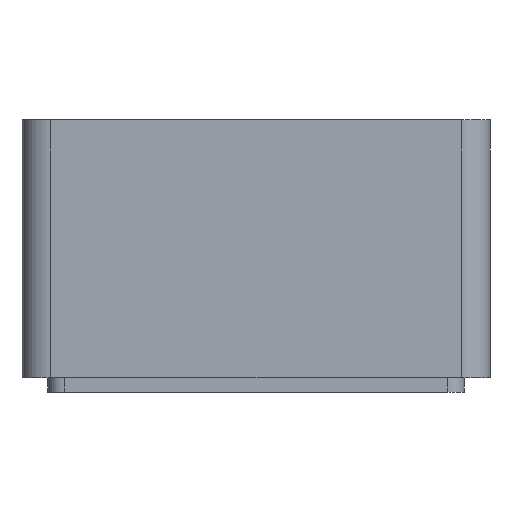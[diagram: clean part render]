
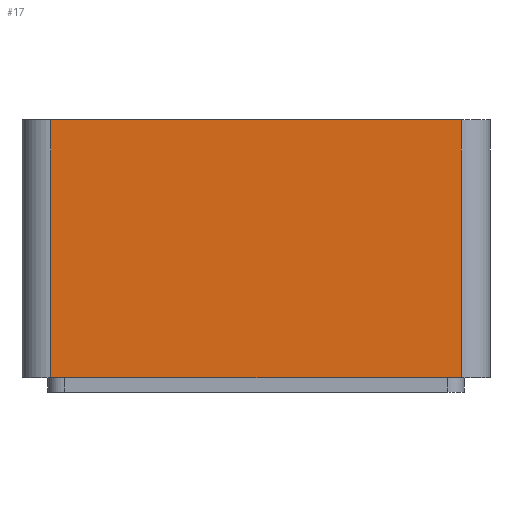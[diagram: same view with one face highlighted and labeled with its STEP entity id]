
A CAD part, left-side view. The second image highlights one B-rep face of the part: STEP entity #17.
In plain terms, the highlighted planar face has unit normal (-1, 0, 0).
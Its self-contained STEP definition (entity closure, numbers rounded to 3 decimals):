
#17 = ADVANCED_FACE('',(#18),#32,.F.);
#18 = FACE_BOUND('',#19,.F.);
#19 = EDGE_LOOP('',(#20,#55,#83,#111));
#20 = ORIENTED_EDGE('',*,*,#21,.F.);
#21 = EDGE_CURVE('',#22,#24,#26,.T.);
#22 = VERTEX_POINT('',#23);
#23 = CARTESIAN_POINT('',(102.,93.,114.));
#24 = VERTEX_POINT('',#25);
#25 = CARTESIAN_POINT('',(102.,93.,60.));
#26 = SURFACE_CURVE('',#27,(#31,#43),.PCURVE_S1.);
#27 = LINE('',#28,#29);
#28 = CARTESIAN_POINT('',(102.,93.,114.));
#29 = VECTOR('',#30,1.);
#30 = DIRECTION('',(0.,0.,-1.));
#31 = PCURVE('',#32,#37);
#32 = PLANE('',#33);
#33 = AXIS2_PLACEMENT_3D('',#34,#35,#36);
#34 = CARTESIAN_POINT('',(102.,1.,60.));
#35 = DIRECTION('',(1.,0.,-0.));
#36 = DIRECTION('',(0.,0.,1.));
#37 = DEFINITIONAL_REPRESENTATION('',(#38),#42);
#38 = LINE('',#39,#40);
#39 = CARTESIAN_POINT('',(54.,-92.));
#40 = VECTOR('',#41,1.);
#41 = DIRECTION('',(-1.,0.));
#42 = ( GEOMETRIC_REPRESENTATION_CONTEXT(2)
PARAMETRIC_REPRESENTATION_CONTEXT() REPRESENTATION_CONTEXT('2D SPACE',''
  ) );
#43 = PCURVE('',#44,#49);
#44 = CYLINDRICAL_SURFACE('',#45,6.);
#45 = AXIS2_PLACEMENT_3D('',#46,#47,#48);
#46 = CARTESIAN_POINT('',(108.,93.,60.));
#47 = DIRECTION('',(0.,0.,1.));
#48 = DIRECTION('',(-1.,-0.,0.));
#49 = DEFINITIONAL_REPRESENTATION('',(#50),#54);
#50 = LINE('',#51,#52);
#51 = CARTESIAN_POINT('',(-0.,54.));
#52 = VECTOR('',#53,1.);
#53 = DIRECTION('',(-0.,-1.));
#54 = ( GEOMETRIC_REPRESENTATION_CONTEXT(2)
PARAMETRIC_REPRESENTATION_CONTEXT() REPRESENTATION_CONTEXT('2D SPACE',''
  ) );
#55 = ORIENTED_EDGE('',*,*,#56,.F.);
#56 = EDGE_CURVE('',#57,#22,#59,.T.);
#57 = VERTEX_POINT('',#58);
#58 = CARTESIAN_POINT('',(102.,7.,114.));
#59 = SURFACE_CURVE('',#60,(#64,#71),.PCURVE_S1.);
#60 = LINE('',#61,#62);
#61 = CARTESIAN_POINT('',(102.,1.,114.));
#62 = VECTOR('',#63,1.);
#63 = DIRECTION('',(-0.,1.,0.));
#64 = PCURVE('',#32,#65);
#65 = DEFINITIONAL_REPRESENTATION('',(#66),#70);
#66 = LINE('',#67,#68);
#67 = CARTESIAN_POINT('',(54.,0.));
#68 = VECTOR('',#69,1.);
#69 = DIRECTION('',(0.,-1.));
#70 = ( GEOMETRIC_REPRESENTATION_CONTEXT(2)
PARAMETRIC_REPRESENTATION_CONTEXT() REPRESENTATION_CONTEXT('2D SPACE',''
  ) );
#71 = PCURVE('',#72,#77);
#72 = PLANE('',#73);
#73 = AXIS2_PLACEMENT_3D('',#74,#75,#76);
#74 = CARTESIAN_POINT('',(102.,1.,114.));
#75 = DIRECTION('',(0.,0.,1.));
#76 = DIRECTION('',(1.,0.,-0.));
#77 = DEFINITIONAL_REPRESENTATION('',(#78),#82);
#78 = LINE('',#79,#80);
#79 = CARTESIAN_POINT('',(0.,0.));
#80 = VECTOR('',#81,1.);
#81 = DIRECTION('',(0.,1.));
#82 = ( GEOMETRIC_REPRESENTATION_CONTEXT(2)
PARAMETRIC_REPRESENTATION_CONTEXT() REPRESENTATION_CONTEXT('2D SPACE',''
  ) );
#83 = ORIENTED_EDGE('',*,*,#84,.F.);
#84 = EDGE_CURVE('',#85,#57,#87,.T.);
#85 = VERTEX_POINT('',#86);
#86 = CARTESIAN_POINT('',(102.,7.,60.));
#87 = SURFACE_CURVE('',#88,(#92,#99),.PCURVE_S1.);
#88 = LINE('',#89,#90);
#89 = CARTESIAN_POINT('',(102.,7.,60.));
#90 = VECTOR('',#91,1.);
#91 = DIRECTION('',(0.,0.,1.));
#92 = PCURVE('',#32,#93);
#93 = DEFINITIONAL_REPRESENTATION('',(#94),#98);
#94 = LINE('',#95,#96);
#95 = CARTESIAN_POINT('',(0.,-6.));
#96 = VECTOR('',#97,1.);
#97 = DIRECTION('',(1.,0.));
#98 = ( GEOMETRIC_REPRESENTATION_CONTEXT(2)
PARAMETRIC_REPRESENTATION_CONTEXT() REPRESENTATION_CONTEXT('2D SPACE',''
  ) );
#99 = PCURVE('',#100,#105);
#100 = CYLINDRICAL_SURFACE('',#101,6.);
#101 = AXIS2_PLACEMENT_3D('',#102,#103,#104);
#102 = CARTESIAN_POINT('',(108.,7.,60.));
#103 = DIRECTION('',(0.,0.,1.));
#104 = DIRECTION('',(-1.,-0.,0.));
#105 = DEFINITIONAL_REPRESENTATION('',(#106),#110);
#106 = LINE('',#107,#108);
#107 = CARTESIAN_POINT('',(0.,0.));
#108 = VECTOR('',#109,1.);
#109 = DIRECTION('',(0.,1.));
#110 = ( GEOMETRIC_REPRESENTATION_CONTEXT(2)
PARAMETRIC_REPRESENTATION_CONTEXT() REPRESENTATION_CONTEXT('2D SPACE',''
  ) );
#111 = ORIENTED_EDGE('',*,*,#112,.T.);
#112 = EDGE_CURVE('',#85,#24,#113,.T.);
#113 = SURFACE_CURVE('',#114,(#118,#125),.PCURVE_S1.);
#114 = LINE('',#115,#116);
#115 = CARTESIAN_POINT('',(102.,1.,60.));
#116 = VECTOR('',#117,1.);
#117 = DIRECTION('',(-0.,1.,0.));
#118 = PCURVE('',#32,#119);
#119 = DEFINITIONAL_REPRESENTATION('',(#120),#124);
#120 = LINE('',#121,#122);
#121 = CARTESIAN_POINT('',(0.,0.));
#122 = VECTOR('',#123,1.);
#123 = DIRECTION('',(0.,-1.));
#124 = ( GEOMETRIC_REPRESENTATION_CONTEXT(2)
PARAMETRIC_REPRESENTATION_CONTEXT() REPRESENTATION_CONTEXT('2D SPACE',''
  ) );
#125 = PCURVE('',#126,#131);
#126 = PLANE('',#127);
#127 = AXIS2_PLACEMENT_3D('',#128,#129,#130);
#128 = CARTESIAN_POINT('',(102.,1.,60.));
#129 = DIRECTION('',(0.,0.,1.));
#130 = DIRECTION('',(1.,0.,-0.));
#131 = DEFINITIONAL_REPRESENTATION('',(#132),#136);
#132 = LINE('',#133,#134);
#133 = CARTESIAN_POINT('',(0.,0.));
#134 = VECTOR('',#135,1.);
#135 = DIRECTION('',(0.,1.));
#136 = ( GEOMETRIC_REPRESENTATION_CONTEXT(2)
PARAMETRIC_REPRESENTATION_CONTEXT() REPRESENTATION_CONTEXT('2D SPACE',''
  ) );
